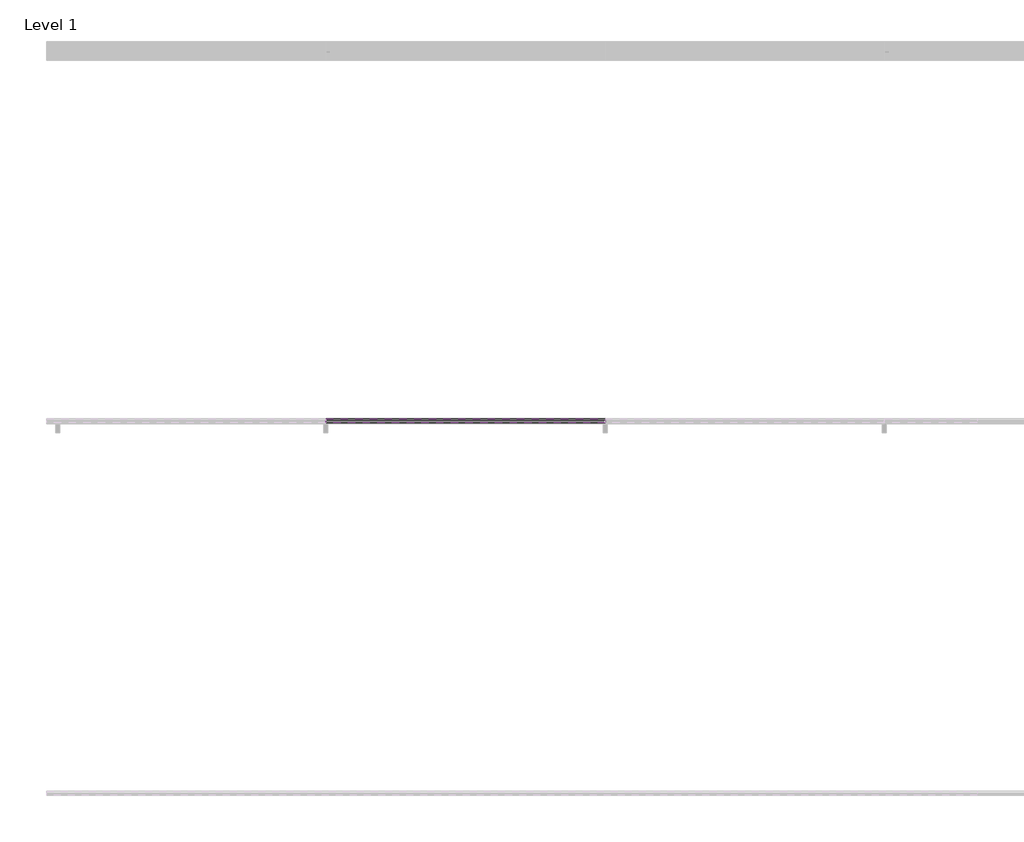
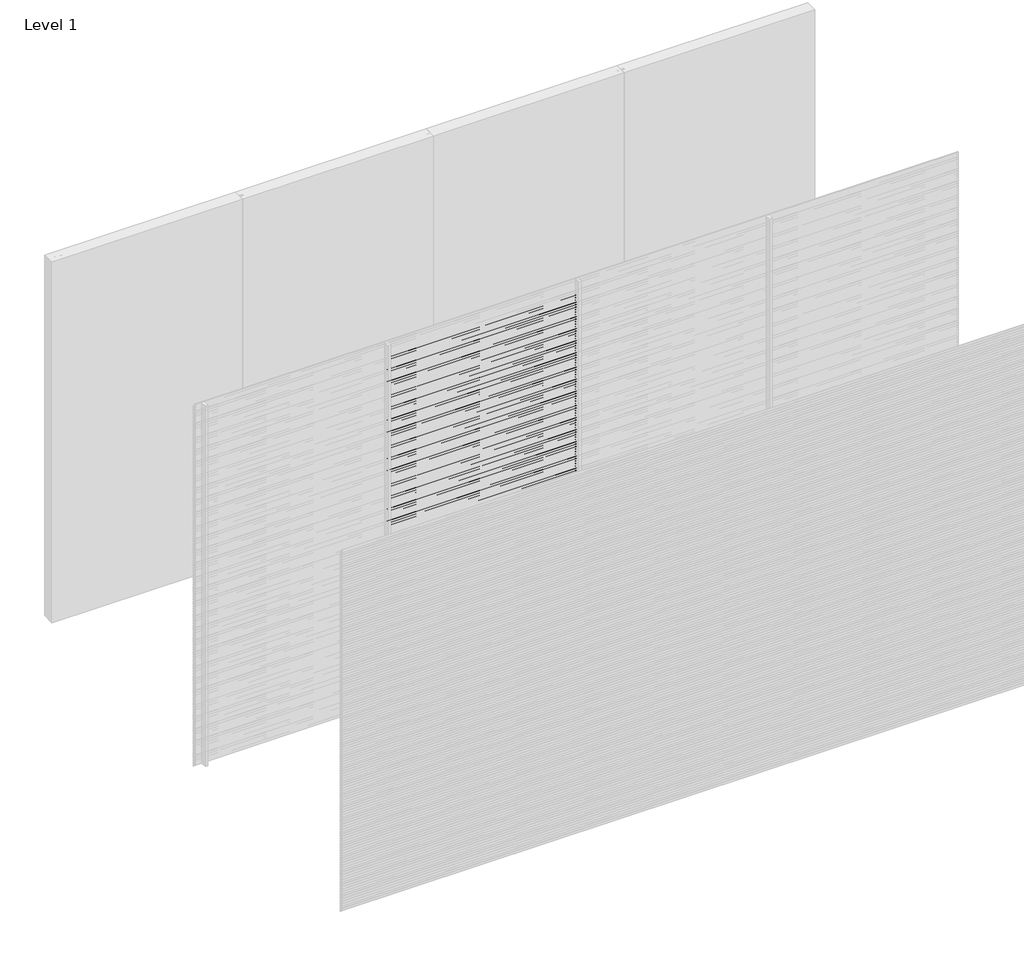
# One storey, part 20 of 31: 97 proxies.
"""IFC4 building model written with IfcOpenShell, lengths in millimetres."""

from ifc_helpers import new_model, si_unit, frame, origin, place, context, project, spatial, polyline, outline, extrude, element, save

model = new_model("IFC4")

# Units and contexts
model_context = context("Model", 3, world=origin())
ifc_project = project(units=[si_unit("LENGTHUNIT", "METRE", prefix="MILLI")], contexts=[model_context])

# Site, building, storey
site = spatial("IfcSite", under=ifc_project)
building = spatial("IfcBuilding", under=site)
storey = spatial("IfcBuildingStorey", under=building, Name="Level 1", Elevation=0.0)

# Proxies
placement = place(None, origin())
element("IfcBuildingElementProxy", 1, Name="Wall Sweeps", at=placement, inside=storey, context=model_context, shape_type="SweptSolid", body=[
    extrude(outline(polyline([(-5995.0, 2880.0), (-5995.0, 2868.942893), (-5976.0, 2853.0), (-5976.0, 2840.0), (-5997.0, 2857.6210923), (-5997.0, 2880.0), (-5995.0, 2880.0)])), frame((1500.0, 0.0, 0.0), z_axis=(1.0, 0.0, 0.0), x_axis=(0.0, 1.0, 0.0)), (0.0, 0.0, 1.0), 1500.0),
])
element("IfcBuildingElementProxy", 2, Name="Wall Sweeps", at=placement, inside=storey, context=model_context, shape_type="SweptSolid", body=[
    extrude(outline(polyline([(-5995.0, 2860.0), (-5995.0, 2848.942893), (-5976.0, 2833.0), (-5976.0, 2820.0), (-5997.0, 2837.6210923), (-5997.0, 2860.0), (-5995.0, 2860.0)])), frame((1500.0, 0.0, 0.0), z_axis=(1.0, 0.0, 0.0), x_axis=(0.0, 1.0, 0.0)), (0.0, 0.0, 1.0), 1500.0),
])
element("IfcBuildingElementProxy", 3, Name="Wall Sweeps", at=placement, inside=storey, context=model_context, shape_type="SweptSolid", body=[
    extrude(outline(polyline([(-5995.0, 2840.0), (-5995.0, 2828.942893), (-5976.0, 2813.0), (-5976.0, 2800.0), (-5997.0, 2817.6210923), (-5997.0, 2840.0), (-5995.0, 2840.0)])), frame((1500.0, 0.0, 0.0), z_axis=(1.0, 0.0, 0.0), x_axis=(0.0, 1.0, 0.0)), (0.0, 0.0, 1.0), 1500.0),
])
element("IfcBuildingElementProxy", 4, Name="Wall Sweeps", at=placement, inside=storey, context=model_context, shape_type="SweptSolid", body=[
    extrude(outline(polyline([(-5995.0, 2820.0), (-5995.0, 2808.942893), (-5976.0, 2793.0), (-5976.0, 2780.0), (-5997.0, 2797.6210923), (-5997.0, 2820.0), (-5995.0, 2820.0)])), frame((1500.0, 0.0, 0.0), z_axis=(1.0, 0.0, 0.0), x_axis=(0.0, 1.0, 0.0)), (0.0, 0.0, 1.0), 1500.0),
])
element("IfcBuildingElementProxy", 5, Name="Wall Sweeps", at=placement, inside=storey, context=model_context, shape_type="SweptSolid", body=[
    extrude(outline(polyline([(-5995.0, 2800.0), (-5995.0, 2788.942893), (-5976.0, 2773.0), (-5976.0, 2760.0), (-5997.0, 2777.6210923), (-5997.0, 2800.0), (-5995.0, 2800.0)])), frame((1500.0, 0.0, 0.0), z_axis=(1.0, 0.0, 0.0), x_axis=(0.0, 1.0, 0.0)), (0.0, 0.0, 1.0), 1500.0),
])
element("IfcBuildingElementProxy", 6, Name="Wall Sweeps", at=placement, inside=storey, context=model_context, shape_type="SweptSolid", body=[
    extrude(outline(polyline([(-5995.0, 2780.0), (-5995.0, 2768.942893), (-5976.0, 2753.0), (-5976.0, 2740.0), (-5997.0, 2757.6210923), (-5997.0, 2780.0), (-5995.0, 2780.0)])), frame((1500.0, 0.0, 0.0), z_axis=(1.0, 0.0, 0.0), x_axis=(0.0, 1.0, 0.0)), (0.0, 0.0, 1.0), 1500.0),
])
element("IfcBuildingElementProxy", 7, Name="Wall Sweeps", at=placement, inside=storey, context=model_context, shape_type="SweptSolid", body=[
    extrude(outline(polyline([(-5995.0, 2760.0), (-5995.0, 2748.942893), (-5976.0, 2733.0), (-5976.0, 2720.0), (-5997.0, 2737.6210923), (-5997.0, 2760.0), (-5995.0, 2760.0)])), frame((1500.0, 0.0, 0.0), z_axis=(1.0, 0.0, 0.0), x_axis=(0.0, 1.0, 0.0)), (0.0, 0.0, 1.0), 1500.0),
])
element("IfcBuildingElementProxy", 8, Name="Wall Sweeps", at=placement, inside=storey, context=model_context, shape_type="SweptSolid", body=[
    extrude(outline(polyline([(-5995.0, 2740.0), (-5995.0, 2728.942893), (-5976.0, 2713.0), (-5976.0, 2700.0), (-5997.0, 2717.6210923), (-5997.0, 2740.0), (-5995.0, 2740.0)])), frame((1500.0, 0.0, 0.0), z_axis=(1.0, 0.0, 0.0), x_axis=(0.0, 1.0, 0.0)), (0.0, 0.0, 1.0), 1500.0),
])
element("IfcBuildingElementProxy", 9, Name="Wall Sweeps", at=placement, inside=storey, context=model_context, shape_type="SweptSolid", body=[
    extrude(outline(polyline([(-5995.0, 2720.0), (-5995.0, 2708.942893), (-5976.0, 2693.0), (-5976.0, 2680.0), (-5997.0, 2697.6210923), (-5997.0, 2720.0), (-5995.0, 2720.0)])), frame((1500.0, 0.0, 0.0), z_axis=(1.0, 0.0, 0.0), x_axis=(0.0, 1.0, 0.0)), (0.0, 0.0, 1.0), 1500.0),
])
element("IfcBuildingElementProxy", 10, Name="Wall Sweeps", at=placement, inside=storey, context=model_context, shape_type="SweptSolid", body=[
    extrude(outline(polyline([(-5995.0, 2700.0), (-5995.0, 2688.942893), (-5976.0, 2673.0), (-5976.0, 2660.0), (-5997.0, 2677.6210923), (-5997.0, 2700.0), (-5995.0, 2700.0)])), frame((1500.0, 0.0, 0.0), z_axis=(1.0, 0.0, 0.0), x_axis=(0.0, 1.0, 0.0)), (0.0, 0.0, 1.0), 1500.0),
])
element("IfcBuildingElementProxy", 11, Name="Wall Sweeps", at=placement, inside=storey, context=model_context, shape_type="SweptSolid", body=[
    extrude(outline(polyline([(-5995.0, 2680.0), (-5995.0, 2668.942893), (-5976.0, 2653.0), (-5976.0, 2640.0), (-5997.0, 2657.6210923), (-5997.0, 2680.0), (-5995.0, 2680.0)])), frame((1500.0, 0.0, 0.0), z_axis=(1.0, 0.0, 0.0), x_axis=(0.0, 1.0, 0.0)), (0.0, 0.0, 1.0), 1500.0),
])
element("IfcBuildingElementProxy", 12, Name="Wall Sweeps", at=placement, inside=storey, context=model_context, shape_type="SweptSolid", body=[
    extrude(outline(polyline([(-5995.0, 2660.0), (-5995.0, 2648.942893), (-5976.0, 2633.0), (-5976.0, 2620.0), (-5997.0, 2637.6210923), (-5997.0, 2660.0), (-5995.0, 2660.0)])), frame((1500.0, 0.0, 0.0), z_axis=(1.0, 0.0, 0.0), x_axis=(0.0, 1.0, 0.0)), (0.0, 0.0, 1.0), 1500.0),
])
element("IfcBuildingElementProxy", 13, Name="Wall Sweeps", at=placement, inside=storey, context=model_context, shape_type="SweptSolid", body=[
    extrude(outline(polyline([(-5995.0, 2640.0), (-5995.0, 2628.942893), (-5976.0, 2613.0), (-5976.0, 2600.0), (-5997.0, 2617.6210923), (-5997.0, 2640.0), (-5995.0, 2640.0)])), frame((1500.0, 0.0, 0.0), z_axis=(1.0, 0.0, 0.0), x_axis=(0.0, 1.0, 0.0)), (0.0, 0.0, 1.0), 1500.0),
])
element("IfcBuildingElementProxy", 14, Name="Wall Sweeps", at=placement, inside=storey, context=model_context, shape_type="SweptSolid", body=[
    extrude(outline(polyline([(-5995.0, 2620.0), (-5995.0, 2608.942893), (-5976.0, 2593.0), (-5976.0, 2580.0), (-5997.0, 2597.6210923), (-5997.0, 2620.0), (-5995.0, 2620.0)])), frame((1500.0, 0.0, 0.0), z_axis=(1.0, 0.0, 0.0), x_axis=(0.0, 1.0, 0.0)), (0.0, 0.0, 1.0), 1500.0),
])
element("IfcBuildingElementProxy", 15, Name="Wall Sweeps", at=placement, inside=storey, context=model_context, shape_type="SweptSolid", body=[
    extrude(outline(polyline([(-5995.0, 2600.0), (-5995.0, 2588.942893), (-5976.0, 2573.0), (-5976.0, 2560.0), (-5997.0, 2577.6210923), (-5997.0, 2600.0), (-5995.0, 2600.0)])), frame((1500.0, 0.0, 0.0), z_axis=(1.0, 0.0, 0.0), x_axis=(0.0, 1.0, 0.0)), (0.0, 0.0, 1.0), 1500.0),
])
element("IfcBuildingElementProxy", 16, Name="Wall Sweeps", at=placement, inside=storey, context=model_context, shape_type="SweptSolid", body=[
    extrude(outline(polyline([(-5995.0, 2580.0), (-5995.0, 2568.942893), (-5976.0, 2553.0), (-5976.0, 2540.0), (-5997.0, 2557.6210923), (-5997.0, 2580.0), (-5995.0, 2580.0)])), frame((1500.0, 0.0, 0.0), z_axis=(1.0, 0.0, 0.0), x_axis=(0.0, 1.0, 0.0)), (0.0, 0.0, 1.0), 1500.0),
])
element("IfcBuildingElementProxy", 17, Name="Wall Sweeps", at=placement, inside=storey, context=model_context, shape_type="SweptSolid", body=[
    extrude(outline(polyline([(-5995.0, 2560.0), (-5995.0, 2548.942893), (-5976.0, 2533.0), (-5976.0, 2520.0), (-5997.0, 2537.6210923), (-5997.0, 2560.0), (-5995.0, 2560.0)])), frame((1500.0, 0.0, 0.0), z_axis=(1.0, 0.0, 0.0), x_axis=(0.0, 1.0, 0.0)), (0.0, 0.0, 1.0), 1500.0),
])
element("IfcBuildingElementProxy", 18, Name="Wall Sweeps", at=placement, inside=storey, context=model_context, shape_type="SweptSolid", body=[
    extrude(outline(polyline([(-5995.0, 2540.0), (-5995.0, 2528.942893), (-5976.0, 2513.0), (-5976.0, 2500.0), (-5997.0, 2517.6210923), (-5997.0, 2540.0), (-5995.0, 2540.0)])), frame((1500.0, 0.0, 0.0), z_axis=(1.0, 0.0, 0.0), x_axis=(0.0, 1.0, 0.0)), (0.0, 0.0, 1.0), 1500.0),
])
element("IfcBuildingElementProxy", 19, Name="Wall Sweeps", at=placement, inside=storey, context=model_context, shape_type="SweptSolid", body=[
    extrude(outline(polyline([(-5995.0, 2520.0), (-5995.0, 2508.942893), (-5976.0, 2493.0), (-5976.0, 2480.0), (-5997.0, 2497.6210923), (-5997.0, 2520.0), (-5995.0, 2520.0)])), frame((1500.0, 0.0, 0.0), z_axis=(1.0, 0.0, 0.0), x_axis=(0.0, 1.0, 0.0)), (0.0, 0.0, 1.0), 1500.0),
])
element("IfcBuildingElementProxy", 20, Name="Wall Sweeps", at=placement, inside=storey, context=model_context, shape_type="SweptSolid", body=[
    extrude(outline(polyline([(-5995.0, 2500.0), (-5995.0, 2488.942893), (-5976.0, 2473.0), (-5976.0, 2460.0), (-5997.0, 2477.6210923), (-5997.0, 2500.0), (-5995.0, 2500.0)])), frame((1500.0, 0.0, 0.0), z_axis=(1.0, 0.0, 0.0), x_axis=(0.0, 1.0, 0.0)), (0.0, 0.0, 1.0), 1500.0),
])
element("IfcBuildingElementProxy", 21, Name="Wall Sweeps", at=placement, inside=storey, context=model_context, shape_type="SweptSolid", body=[
    extrude(outline(polyline([(-5995.0, 2480.0), (-5995.0, 2468.942893), (-5976.0, 2453.0), (-5976.0, 2440.0), (-5997.0, 2457.6210923), (-5997.0, 2480.0), (-5995.0, 2480.0)])), frame((1500.0, 0.0, 0.0), z_axis=(1.0, 0.0, 0.0), x_axis=(0.0, 1.0, 0.0)), (0.0, 0.0, 1.0), 1500.0),
])
element("IfcBuildingElementProxy", 22, Name="Wall Sweeps", at=placement, inside=storey, context=model_context, shape_type="SweptSolid", body=[
    extrude(outline(polyline([(-5995.0, 2460.0), (-5995.0, 2448.942893), (-5976.0, 2433.0), (-5976.0, 2420.0), (-5997.0, 2437.6210923), (-5997.0, 2460.0), (-5995.0, 2460.0)])), frame((1500.0, 0.0, 0.0), z_axis=(1.0, 0.0, 0.0), x_axis=(0.0, 1.0, 0.0)), (0.0, 0.0, 1.0), 1500.0),
])
element("IfcBuildingElementProxy", 23, Name="Wall Sweeps", at=placement, inside=storey, context=model_context, shape_type="SweptSolid", body=[
    extrude(outline(polyline([(-5995.0, 2440.0), (-5995.0, 2428.942893), (-5976.0, 2413.0), (-5976.0, 2400.0), (-5997.0, 2417.6210923), (-5997.0, 2440.0), (-5995.0, 2440.0)])), frame((1500.0, 0.0, 0.0), z_axis=(1.0, 0.0, 0.0), x_axis=(0.0, 1.0, 0.0)), (0.0, 0.0, 1.0), 1500.0),
])
element("IfcBuildingElementProxy", 24, Name="Wall Sweeps", at=placement, inside=storey, context=model_context, shape_type="SweptSolid", body=[
    extrude(outline(polyline([(-5995.0, 2420.0), (-5995.0, 2408.942893), (-5976.0, 2393.0), (-5976.0, 2380.0), (-5997.0, 2397.6210923), (-5997.0, 2420.0), (-5995.0, 2420.0)])), frame((1500.0, 0.0, 0.0), z_axis=(1.0, 0.0, 0.0), x_axis=(0.0, 1.0, 0.0)), (0.0, 0.0, 1.0), 1500.0),
])
element("IfcBuildingElementProxy", 25, Name="Wall Sweeps", at=placement, inside=storey, context=model_context, shape_type="SweptSolid", body=[
    extrude(outline(polyline([(-5995.0, 2400.0), (-5995.0, 2388.942893), (-5976.0, 2373.0), (-5976.0, 2360.0), (-5997.0, 2377.6210923), (-5997.0, 2400.0), (-5995.0, 2400.0)])), frame((1500.0, 0.0, 0.0), z_axis=(1.0, 0.0, 0.0), x_axis=(0.0, 1.0, 0.0)), (0.0, 0.0, 1.0), 1500.0),
])
element("IfcBuildingElementProxy", 26, Name="Wall Sweeps", at=placement, inside=storey, context=model_context, shape_type="SweptSolid", body=[
    extrude(outline(polyline([(-5995.0, 2380.0), (-5995.0, 2368.942893), (-5976.0, 2353.0), (-5976.0, 2340.0), (-5997.0, 2357.6210923), (-5997.0, 2380.0), (-5995.0, 2380.0)])), frame((1500.0, 0.0, 0.0), z_axis=(1.0, 0.0, 0.0), x_axis=(0.0, 1.0, 0.0)), (0.0, 0.0, 1.0), 1500.0),
])
element("IfcBuildingElementProxy", 27, Name="Wall Sweeps", at=placement, inside=storey, context=model_context, shape_type="SweptSolid", body=[
    extrude(outline(polyline([(-5995.0, 2360.0), (-5995.0, 2348.942893), (-5976.0, 2333.0), (-5976.0, 2320.0), (-5997.0, 2337.6210923), (-5997.0, 2360.0), (-5995.0, 2360.0)])), frame((1500.0, 0.0, 0.0), z_axis=(1.0, 0.0, 0.0), x_axis=(0.0, 1.0, 0.0)), (0.0, 0.0, 1.0), 1500.0),
])
element("IfcBuildingElementProxy", 28, Name="Wall Sweeps", at=placement, inside=storey, context=model_context, shape_type="SweptSolid", body=[
    extrude(outline(polyline([(-5995.0, 2340.0), (-5995.0, 2328.942893), (-5976.0, 2313.0), (-5976.0, 2300.0), (-5997.0, 2317.6210923), (-5997.0, 2340.0), (-5995.0, 2340.0)])), frame((1500.0, 0.0, 0.0), z_axis=(1.0, 0.0, 0.0), x_axis=(0.0, 1.0, 0.0)), (0.0, 0.0, 1.0), 1500.0),
])
element("IfcBuildingElementProxy", 29, Name="Wall Sweeps", at=placement, inside=storey, context=model_context, shape_type="SweptSolid", body=[
    extrude(outline(polyline([(-5995.0, 2320.0), (-5995.0, 2308.942893), (-5976.0, 2293.0), (-5976.0, 2280.0), (-5997.0, 2297.6210923), (-5997.0, 2320.0), (-5995.0, 2320.0)])), frame((1500.0, 0.0, 0.0), z_axis=(1.0, 0.0, 0.0), x_axis=(0.0, 1.0, 0.0)), (0.0, 0.0, 1.0), 1500.0),
])
element("IfcBuildingElementProxy", 30, Name="Wall Sweeps", at=placement, inside=storey, context=model_context, shape_type="SweptSolid", body=[
    extrude(outline(polyline([(-5995.0, 2300.0), (-5995.0, 2288.942893), (-5976.0, 2273.0), (-5976.0, 2260.0), (-5997.0, 2277.6210923), (-5997.0, 2300.0), (-5995.0, 2300.0)])), frame((1500.0, 0.0, 0.0), z_axis=(1.0, 0.0, 0.0), x_axis=(0.0, 1.0, 0.0)), (0.0, 0.0, 1.0), 1500.0),
])
element("IfcBuildingElementProxy", 31, Name="Wall Sweeps", at=placement, inside=storey, context=model_context, shape_type="SweptSolid", body=[
    extrude(outline(polyline([(-5995.0, 2280.0), (-5995.0, 2268.942893), (-5976.0, 2253.0), (-5976.0, 2240.0), (-5997.0, 2257.6210923), (-5997.0, 2280.0), (-5995.0, 2280.0)])), frame((1500.0, 0.0, 0.0), z_axis=(1.0, 0.0, 0.0), x_axis=(0.0, 1.0, 0.0)), (0.0, 0.0, 1.0), 1500.0),
])
element("IfcBuildingElementProxy", 32, Name="Wall Sweeps", at=placement, inside=storey, context=model_context, shape_type="SweptSolid", body=[
    extrude(outline(polyline([(-5995.0, 2260.0), (-5995.0, 2248.942893), (-5976.0, 2233.0), (-5976.0, 2220.0), (-5997.0, 2237.6210923), (-5997.0, 2260.0), (-5995.0, 2260.0)])), frame((1500.0, 0.0, 0.0), z_axis=(1.0, 0.0, 0.0), x_axis=(0.0, 1.0, 0.0)), (0.0, 0.0, 1.0), 1500.0),
])
element("IfcBuildingElementProxy", 33, Name="Wall Sweeps", at=placement, inside=storey, context=model_context, shape_type="SweptSolid", body=[
    extrude(outline(polyline([(-5995.0, 2240.0), (-5995.0, 2228.942893), (-5976.0, 2213.0), (-5976.0, 2200.0), (-5997.0, 2217.6210923), (-5997.0, 2240.0), (-5995.0, 2240.0)])), frame((1500.0, 0.0, 0.0), z_axis=(1.0, 0.0, 0.0), x_axis=(0.0, 1.0, 0.0)), (0.0, 0.0, 1.0), 1500.0),
])
element("IfcBuildingElementProxy", 34, Name="Wall Sweeps", at=placement, inside=storey, context=model_context, shape_type="SweptSolid", body=[
    extrude(outline(polyline([(-5995.0, 2220.0), (-5995.0, 2208.942893), (-5976.0, 2193.0), (-5976.0, 2180.0), (-5997.0, 2197.6210923), (-5997.0, 2220.0), (-5995.0, 2220.0)])), frame((1500.0, 0.0, 0.0), z_axis=(1.0, 0.0, 0.0), x_axis=(0.0, 1.0, 0.0)), (0.0, 0.0, 1.0), 1500.0),
])
element("IfcBuildingElementProxy", 35, Name="Wall Sweeps", at=placement, inside=storey, context=model_context, shape_type="SweptSolid", body=[
    extrude(outline(polyline([(-5995.0, 2200.0), (-5995.0, 2188.942893), (-5976.0, 2173.0), (-5976.0, 2160.0), (-5997.0, 2177.6210923), (-5997.0, 2200.0), (-5995.0, 2200.0)])), frame((1500.0, 0.0, 0.0), z_axis=(1.0, 0.0, 0.0), x_axis=(0.0, 1.0, 0.0)), (0.0, 0.0, 1.0), 1500.0),
])
element("IfcBuildingElementProxy", 36, Name="Wall Sweeps", at=placement, inside=storey, context=model_context, shape_type="SweptSolid", body=[
    extrude(outline(polyline([(-5995.0, 2180.0), (-5995.0, 2168.942893), (-5976.0, 2153.0), (-5976.0, 2140.0), (-5997.0, 2157.6210923), (-5997.0, 2180.0), (-5995.0, 2180.0)])), frame((1500.0, 0.0, 0.0), z_axis=(1.0, 0.0, 0.0), x_axis=(0.0, 1.0, 0.0)), (0.0, 0.0, 1.0), 1500.0),
])
element("IfcBuildingElementProxy", 37, Name="Wall Sweeps", at=placement, inside=storey, context=model_context, shape_type="SweptSolid", body=[
    extrude(outline(polyline([(-5995.0, 2160.0), (-5995.0, 2148.942893), (-5976.0, 2133.0), (-5976.0, 2120.0), (-5997.0, 2137.6210923), (-5997.0, 2160.0), (-5995.0, 2160.0)])), frame((1500.0, 0.0, 0.0), z_axis=(1.0, 0.0, 0.0), x_axis=(0.0, 1.0, 0.0)), (0.0, 0.0, 1.0), 1500.0),
])
element("IfcBuildingElementProxy", 38, Name="Wall Sweeps", at=placement, inside=storey, context=model_context, shape_type="SweptSolid", body=[
    extrude(outline(polyline([(-5995.0, 2140.0), (-5995.0, 2128.942893), (-5976.0, 2113.0), (-5976.0, 2100.0), (-5997.0, 2117.6210923), (-5997.0, 2140.0), (-5995.0, 2140.0)])), frame((1500.0, 0.0, 0.0), z_axis=(1.0, 0.0, 0.0), x_axis=(0.0, 1.0, 0.0)), (0.0, 0.0, 1.0), 1500.0),
])
element("IfcBuildingElementProxy", 39, Name="Wall Sweeps", at=placement, inside=storey, context=model_context, shape_type="SweptSolid", body=[
    extrude(outline(polyline([(-5995.0, 2120.0), (-5995.0, 2108.942893), (-5976.0, 2093.0), (-5976.0, 2080.0), (-5997.0, 2097.6210923), (-5997.0, 2120.0), (-5995.0, 2120.0)])), frame((1500.0, 0.0, 0.0), z_axis=(1.0, 0.0, 0.0), x_axis=(0.0, 1.0, 0.0)), (0.0, 0.0, 1.0), 1500.0),
])
element("IfcBuildingElementProxy", 40, Name="Wall Sweeps", at=placement, inside=storey, context=model_context, shape_type="SweptSolid", body=[
    extrude(outline(polyline([(-5995.0, 2100.0), (-5995.0, 2088.942893), (-5976.0, 2073.0), (-5976.0, 2060.0), (-5997.0, 2077.6210923), (-5997.0, 2100.0), (-5995.0, 2100.0)])), frame((1500.0, 0.0, 0.0), z_axis=(1.0, 0.0, 0.0), x_axis=(0.0, 1.0, 0.0)), (0.0, 0.0, 1.0), 1500.0),
])
element("IfcBuildingElementProxy", 41, Name="Wall Sweeps", at=placement, inside=storey, context=model_context, shape_type="SweptSolid", body=[
    extrude(outline(polyline([(-5995.0, 2080.0), (-5995.0, 2068.942893), (-5976.0, 2053.0), (-5976.0, 2040.0), (-5997.0, 2057.6210923), (-5997.0, 2080.0), (-5995.0, 2080.0)])), frame((1500.0, 0.0, 0.0), z_axis=(1.0, 0.0, 0.0), x_axis=(0.0, 1.0, 0.0)), (0.0, 0.0, 1.0), 1500.0),
])
element("IfcBuildingElementProxy", 42, Name="Wall Sweeps", at=placement, inside=storey, context=model_context, shape_type="SweptSolid", body=[
    extrude(outline(polyline([(-5995.0, 2060.0), (-5995.0, 2048.942893), (-5976.0, 2033.0), (-5976.0, 2020.0), (-5997.0, 2037.6210923), (-5997.0, 2060.0), (-5995.0, 2060.0)])), frame((1500.0, 0.0, 0.0), z_axis=(1.0, 0.0, 0.0), x_axis=(0.0, 1.0, 0.0)), (0.0, 0.0, 1.0), 1500.0),
])
element("IfcBuildingElementProxy", 43, Name="Wall Sweeps", at=placement, inside=storey, context=model_context, shape_type="SweptSolid", body=[
    extrude(outline(polyline([(-5995.0, 2040.0), (-5995.0, 2028.942893), (-5976.0, 2013.0), (-5976.0, 2000.0), (-5997.0, 2017.6210923), (-5997.0, 2040.0), (-5995.0, 2040.0)])), frame((1500.0, 0.0, 0.0), z_axis=(1.0, 0.0, 0.0), x_axis=(0.0, 1.0, 0.0)), (0.0, 0.0, 1.0), 1500.0),
])
element("IfcBuildingElementProxy", 44, Name="Wall Sweeps", at=placement, inside=storey, context=model_context, shape_type="SweptSolid", body=[
    extrude(outline(polyline([(-5995.0, 2020.0), (-5995.0, 2008.942893), (-5976.0, 1993.0), (-5976.0, 1980.0), (-5997.0, 1997.6210923), (-5997.0, 2020.0), (-5995.0, 2020.0)])), frame((1500.0, 0.0, 0.0), z_axis=(1.0, 0.0, 0.0), x_axis=(0.0, 1.0, 0.0)), (0.0, 0.0, 1.0), 1500.0),
])
element("IfcBuildingElementProxy", 45, Name="Wall Sweeps", at=placement, inside=storey, context=model_context, shape_type="SweptSolid", body=[
    extrude(outline(polyline([(-5995.0, 2000.0), (-5995.0, 1988.942893), (-5976.0, 1973.0), (-5976.0, 1960.0), (-5997.0, 1977.6210923), (-5997.0, 2000.0), (-5995.0, 2000.0)])), frame((1500.0, 0.0, 0.0), z_axis=(1.0, 0.0, 0.0), x_axis=(0.0, 1.0, 0.0)), (0.0, 0.0, 1.0), 1500.0),
])
element("IfcBuildingElementProxy", 46, Name="Wall Sweeps", at=placement, inside=storey, context=model_context, shape_type="SweptSolid", body=[
    extrude(outline(polyline([(-5995.0, 1980.0), (-5995.0, 1968.942893), (-5976.0, 1953.0), (-5976.0, 1940.0), (-5997.0, 1957.6210923), (-5997.0, 1980.0), (-5995.0, 1980.0)])), frame((1500.0, 0.0, 0.0), z_axis=(1.0, 0.0, 0.0), x_axis=(0.0, 1.0, 0.0)), (0.0, 0.0, 1.0), 1500.0),
])
element("IfcBuildingElementProxy", 47, Name="Wall Sweeps", at=placement, inside=storey, context=model_context, shape_type="SweptSolid", body=[
    extrude(outline(polyline([(-5995.0, 1960.0), (-5995.0, 1948.942893), (-5976.0, 1933.0), (-5976.0, 1920.0), (-5997.0, 1937.6210923), (-5997.0, 1960.0), (-5995.0, 1960.0)])), frame((1500.0, 0.0, 0.0), z_axis=(1.0, 0.0, 0.0), x_axis=(0.0, 1.0, 0.0)), (0.0, 0.0, 1.0), 1500.0),
])
element("IfcBuildingElementProxy", 48, Name="Wall Sweeps", at=placement, inside=storey, context=model_context, shape_type="SweptSolid", body=[
    extrude(outline(polyline([(-5995.0, 1940.0), (-5995.0, 1928.942893), (-5976.0, 1913.0), (-5976.0, 1900.0), (-5997.0, 1917.6210923), (-5997.0, 1940.0), (-5995.0, 1940.0)])), frame((1500.0, 0.0, 0.0), z_axis=(1.0, 0.0, 0.0), x_axis=(0.0, 1.0, 0.0)), (0.0, 0.0, 1.0), 1500.0),
])
element("IfcBuildingElementProxy", 49, Name="Wall Sweeps", at=placement, inside=storey, context=model_context, shape_type="SweptSolid", body=[
    extrude(outline(polyline([(-5995.0, 1920.0), (-5995.0, 1908.942893), (-5976.0, 1893.0), (-5976.0, 1880.0), (-5997.0, 1897.6210923), (-5997.0, 1920.0), (-5995.0, 1920.0)])), frame((1500.0, 0.0, 0.0), z_axis=(1.0, 0.0, 0.0), x_axis=(0.0, 1.0, 0.0)), (0.0, 0.0, 1.0), 1500.0),
])
element("IfcBuildingElementProxy", 50, Name="Wall Sweeps", at=placement, inside=storey, context=model_context, shape_type="SweptSolid", body=[
    extrude(outline(polyline([(-5995.0, 1900.0), (-5995.0, 1888.942893), (-5976.0, 1873.0), (-5976.0, 1860.0), (-5997.0, 1877.6210923), (-5997.0, 1900.0), (-5995.0, 1900.0)])), frame((1500.0, 0.0, 0.0), z_axis=(1.0, 0.0, 0.0), x_axis=(0.0, 1.0, 0.0)), (0.0, 0.0, 1.0), 1500.0),
])
element("IfcBuildingElementProxy", 51, Name="Wall Sweeps", at=placement, inside=storey, context=model_context, shape_type="SweptSolid", body=[
    extrude(outline(polyline([(-5995.0, 1880.0), (-5995.0, 1868.942893), (-5976.0, 1853.0), (-5976.0, 1840.0), (-5997.0, 1857.6210923), (-5997.0, 1880.0), (-5995.0, 1880.0)])), frame((1500.0, 0.0, 0.0), z_axis=(1.0, 0.0, 0.0), x_axis=(0.0, 1.0, 0.0)), (0.0, 0.0, 1.0), 1500.0),
])
element("IfcBuildingElementProxy", 52, Name="Wall Sweeps", at=placement, inside=storey, context=model_context, shape_type="SweptSolid", body=[
    extrude(outline(polyline([(-5995.0, 1860.0), (-5995.0, 1848.942893), (-5976.0, 1833.0), (-5976.0, 1820.0), (-5997.0, 1837.6210923), (-5997.0, 1860.0), (-5995.0, 1860.0)])), frame((1500.0, 0.0, 0.0), z_axis=(1.0, 0.0, 0.0), x_axis=(0.0, 1.0, 0.0)), (0.0, 0.0, 1.0), 1500.0),
])
element("IfcBuildingElementProxy", 53, Name="Wall Sweeps", at=placement, inside=storey, context=model_context, shape_type="SweptSolid", body=[
    extrude(outline(polyline([(-5995.0, 1840.0), (-5995.0, 1828.942893), (-5976.0, 1813.0), (-5976.0, 1800.0), (-5997.0, 1817.6210923), (-5997.0, 1840.0), (-5995.0, 1840.0)])), frame((1500.0, 0.0, 0.0), z_axis=(1.0, 0.0, 0.0), x_axis=(0.0, 1.0, 0.0)), (0.0, 0.0, 1.0), 1500.0),
])
element("IfcBuildingElementProxy", 54, Name="Wall Sweeps", at=placement, inside=storey, context=model_context, shape_type="SweptSolid", body=[
    extrude(outline(polyline([(-5995.0, 1820.0), (-5995.0, 1808.942893), (-5976.0, 1793.0), (-5976.0, 1780.0), (-5997.0, 1797.6210923), (-5997.0, 1820.0), (-5995.0, 1820.0)])), frame((1500.0, 0.0, 0.0), z_axis=(1.0, 0.0, 0.0), x_axis=(0.0, 1.0, 0.0)), (0.0, 0.0, 1.0), 1500.0),
])
element("IfcBuildingElementProxy", 55, Name="Wall Sweeps", at=placement, inside=storey, context=model_context, shape_type="SweptSolid", body=[
    extrude(outline(polyline([(-5995.0, 1800.0), (-5995.0, 1788.942893), (-5976.0, 1773.0), (-5976.0, 1760.0), (-5997.0, 1777.6210923), (-5997.0, 1800.0), (-5995.0, 1800.0)])), frame((1500.0, 0.0, 0.0), z_axis=(1.0, 0.0, 0.0), x_axis=(0.0, 1.0, 0.0)), (0.0, 0.0, 1.0), 1500.0),
])
element("IfcBuildingElementProxy", 56, Name="Wall Sweeps", at=placement, inside=storey, context=model_context, shape_type="SweptSolid", body=[
    extrude(outline(polyline([(-5995.0, 1780.0), (-5995.0, 1768.942893), (-5976.0, 1753.0), (-5976.0, 1740.0), (-5997.0, 1757.6210923), (-5997.0, 1780.0), (-5995.0, 1780.0)])), frame((1500.0, 0.0, 0.0), z_axis=(1.0, 0.0, 0.0), x_axis=(0.0, 1.0, 0.0)), (0.0, 0.0, 1.0), 1500.0),
])
element("IfcBuildingElementProxy", 57, Name="Wall Sweeps", at=placement, inside=storey, context=model_context, shape_type="SweptSolid", body=[
    extrude(outline(polyline([(-5995.0, 1760.0), (-5995.0, 1748.942893), (-5976.0, 1733.0), (-5976.0, 1720.0), (-5997.0, 1737.6210923), (-5997.0, 1760.0), (-5995.0, 1760.0)])), frame((1500.0, 0.0, 0.0), z_axis=(1.0, 0.0, 0.0), x_axis=(0.0, 1.0, 0.0)), (0.0, 0.0, 1.0), 1500.0),
])
element("IfcBuildingElementProxy", 58, Name="Wall Sweeps", at=placement, inside=storey, context=model_context, shape_type="SweptSolid", body=[
    extrude(outline(polyline([(-5995.0, 1740.0), (-5995.0, 1728.942893), (-5976.0, 1713.0), (-5976.0, 1700.0), (-5997.0, 1717.6210923), (-5997.0, 1740.0), (-5995.0, 1740.0)])), frame((1500.0, 0.0, 0.0), z_axis=(1.0, 0.0, 0.0), x_axis=(0.0, 1.0, 0.0)), (0.0, 0.0, 1.0), 1500.0),
])
element("IfcBuildingElementProxy", 59, Name="Wall Sweeps", at=placement, inside=storey, context=model_context, shape_type="SweptSolid", body=[
    extrude(outline(polyline([(-5995.0, 1720.0), (-5995.0, 1708.942893), (-5976.0, 1693.0), (-5976.0, 1680.0), (-5997.0, 1697.6210923), (-5997.0, 1720.0), (-5995.0, 1720.0)])), frame((1500.0, 0.0, 0.0), z_axis=(1.0, 0.0, 0.0), x_axis=(0.0, 1.0, 0.0)), (0.0, 0.0, 1.0), 1500.0),
])
element("IfcBuildingElementProxy", 60, Name="Wall Sweeps", at=placement, inside=storey, context=model_context, shape_type="SweptSolid", body=[
    extrude(outline(polyline([(-5995.0, 1700.0), (-5995.0, 1688.942893), (-5976.0, 1673.0), (-5976.0, 1660.0), (-5997.0, 1677.6210923), (-5997.0, 1700.0), (-5995.0, 1700.0)])), frame((1500.0, 0.0, 0.0), z_axis=(1.0, 0.0, 0.0), x_axis=(0.0, 1.0, 0.0)), (0.0, 0.0, 1.0), 1500.0),
])
element("IfcBuildingElementProxy", 61, Name="Wall Sweeps", at=placement, inside=storey, context=model_context, shape_type="SweptSolid", body=[
    extrude(outline(polyline([(-5995.0, 1680.0), (-5995.0, 1668.942893), (-5976.0, 1653.0), (-5976.0, 1640.0), (-5997.0, 1657.6210923), (-5997.0, 1680.0), (-5995.0, 1680.0)])), frame((1500.0, 0.0, 0.0), z_axis=(1.0, 0.0, 0.0), x_axis=(0.0, 1.0, 0.0)), (0.0, 0.0, 1.0), 1500.0),
])
element("IfcBuildingElementProxy", 62, Name="Wall Sweeps", at=placement, inside=storey, context=model_context, shape_type="SweptSolid", body=[
    extrude(outline(polyline([(-5995.0, 1660.0), (-5995.0, 1648.942893), (-5976.0, 1633.0), (-5976.0, 1620.0), (-5997.0, 1637.6210923), (-5997.0, 1660.0), (-5995.0, 1660.0)])), frame((1500.0, 0.0, 0.0), z_axis=(1.0, 0.0, 0.0), x_axis=(0.0, 1.0, 0.0)), (0.0, 0.0, 1.0), 1500.0),
])
element("IfcBuildingElementProxy", 63, Name="Wall Sweeps", at=placement, inside=storey, context=model_context, shape_type="SweptSolid", body=[
    extrude(outline(polyline([(-5995.0, 1640.0), (-5995.0, 1628.942893), (-5976.0, 1613.0), (-5976.0, 1600.0), (-5997.0, 1617.6210923), (-5997.0, 1640.0), (-5995.0, 1640.0)])), frame((1500.0, 0.0, 0.0), z_axis=(1.0, 0.0, 0.0), x_axis=(0.0, 1.0, 0.0)), (0.0, 0.0, 1.0), 1500.0),
])
element("IfcBuildingElementProxy", 64, Name="Wall Sweeps", at=placement, inside=storey, context=model_context, shape_type="SweptSolid", body=[
    extrude(outline(polyline([(-5995.0, 1620.0), (-5995.0, 1608.942893), (-5976.0, 1593.0), (-5976.0, 1580.0), (-5997.0, 1597.6210923), (-5997.0, 1620.0), (-5995.0, 1620.0)])), frame((1500.0, 0.0, 0.0), z_axis=(1.0, 0.0, 0.0), x_axis=(0.0, 1.0, 0.0)), (0.0, 0.0, 1.0), 1500.0),
])
element("IfcBuildingElementProxy", 65, Name="Wall Sweeps", at=placement, inside=storey, context=model_context, shape_type="SweptSolid", body=[
    extrude(outline(polyline([(-5995.0, 1600.0), (-5995.0, 1588.942893), (-5976.0, 1573.0), (-5976.0, 1560.0), (-5997.0, 1577.6210923), (-5997.0, 1600.0), (-5995.0, 1600.0)])), frame((1500.0, 0.0, 0.0), z_axis=(1.0, 0.0, 0.0), x_axis=(0.0, 1.0, 0.0)), (0.0, 0.0, 1.0), 1500.0),
])
element("IfcBuildingElementProxy", 66, Name="Wall Sweeps", at=placement, inside=storey, context=model_context, shape_type="SweptSolid", body=[
    extrude(outline(polyline([(-5995.0, 1580.0), (-5995.0, 1568.942893), (-5976.0, 1553.0), (-5976.0, 1540.0), (-5997.0, 1557.6210923), (-5997.0, 1580.0), (-5995.0, 1580.0)])), frame((1500.0, 0.0, 0.0), z_axis=(1.0, 0.0, 0.0), x_axis=(0.0, 1.0, 0.0)), (0.0, 0.0, 1.0), 1500.0),
])
element("IfcBuildingElementProxy", 67, Name="Wall Sweeps", at=placement, inside=storey, context=model_context, shape_type="SweptSolid", body=[
    extrude(outline(polyline([(-5995.0, 1560.0), (-5995.0, 1548.942893), (-5976.0, 1533.0), (-5976.0, 1520.0), (-5997.0, 1537.6210923), (-5997.0, 1560.0), (-5995.0, 1560.0)])), frame((1500.0, 0.0, 0.0), z_axis=(1.0, 0.0, 0.0), x_axis=(0.0, 1.0, 0.0)), (0.0, 0.0, 1.0), 1500.0),
])
element("IfcBuildingElementProxy", 68, Name="Wall Sweeps", at=placement, inside=storey, context=model_context, shape_type="SweptSolid", body=[
    extrude(outline(polyline([(-5995.0, 1540.0), (-5995.0, 1528.942893), (-5976.0, 1513.0), (-5976.0, 1500.0), (-5997.0, 1517.6210923), (-5997.0, 1540.0), (-5995.0, 1540.0)])), frame((1500.0, 0.0, 0.0), z_axis=(1.0, 0.0, 0.0), x_axis=(0.0, 1.0, 0.0)), (0.0, 0.0, 1.0), 1500.0),
])
element("IfcBuildingElementProxy", 69, Name="Wall Sweeps", at=placement, inside=storey, context=model_context, shape_type="SweptSolid", body=[
    extrude(outline(polyline([(-5995.0, 1520.0), (-5995.0, 1508.942893), (-5976.0, 1493.0), (-5976.0, 1480.0), (-5997.0, 1497.6210923), (-5997.0, 1520.0), (-5995.0, 1520.0)])), frame((1500.0, 0.0, 0.0), z_axis=(1.0, 0.0, 0.0), x_axis=(0.0, 1.0, 0.0)), (0.0, 0.0, 1.0), 1500.0),
])
element("IfcBuildingElementProxy", 70, Name="Wall Sweeps", at=placement, inside=storey, context=model_context, shape_type="SweptSolid", body=[
    extrude(outline(polyline([(-5995.0, 1500.0), (-5995.0, 1488.942893), (-5976.0, 1473.0), (-5976.0, 1460.0), (-5997.0, 1477.6210923), (-5997.0, 1500.0), (-5995.0, 1500.0)])), frame((1500.0, 0.0, 0.0), z_axis=(1.0, 0.0, 0.0), x_axis=(0.0, 1.0, 0.0)), (0.0, 0.0, 1.0), 1500.0),
])
element("IfcBuildingElementProxy", 71, Name="Wall Sweeps", at=placement, inside=storey, context=model_context, shape_type="SweptSolid", body=[
    extrude(outline(polyline([(-5995.0, 1480.0), (-5995.0, 1468.942893), (-5976.0, 1453.0), (-5976.0, 1440.0), (-5997.0, 1457.6210923), (-5997.0, 1480.0), (-5995.0, 1480.0)])), frame((1500.0, 0.0, 0.0), z_axis=(1.0, 0.0, 0.0), x_axis=(0.0, 1.0, 0.0)), (0.0, 0.0, 1.0), 1500.0),
])
element("IfcBuildingElementProxy", 72, Name="Wall Sweeps", at=placement, inside=storey, context=model_context, shape_type="SweptSolid", body=[
    extrude(outline(polyline([(-5995.0, 1460.0), (-5995.0, 1448.942893), (-5976.0, 1433.0), (-5976.0, 1420.0), (-5997.0, 1437.6210923), (-5997.0, 1460.0), (-5995.0, 1460.0)])), frame((1500.0, 0.0, 0.0), z_axis=(1.0, 0.0, 0.0), x_axis=(0.0, 1.0, 0.0)), (0.0, 0.0, 1.0), 1500.0),
])
element("IfcBuildingElementProxy", 73, Name="Wall Sweeps", at=placement, inside=storey, context=model_context, shape_type="SweptSolid", body=[
    extrude(outline(polyline([(-5995.0, 1440.0), (-5995.0, 1428.942893), (-5976.0, 1413.0), (-5976.0, 1400.0), (-5997.0, 1417.6210923), (-5997.0, 1440.0), (-5995.0, 1440.0)])), frame((1500.0, 0.0, 0.0), z_axis=(1.0, 0.0, 0.0), x_axis=(0.0, 1.0, 0.0)), (0.0, 0.0, 1.0), 1500.0),
])
element("IfcBuildingElementProxy", 74, Name="Wall Sweeps", at=placement, inside=storey, context=model_context, shape_type="SweptSolid", body=[
    extrude(outline(polyline([(-5995.0, 1420.0), (-5995.0, 1408.942893), (-5976.0, 1393.0), (-5976.0, 1380.0), (-5997.0, 1397.6210923), (-5997.0, 1420.0), (-5995.0, 1420.0)])), frame((1500.0, 0.0, 0.0), z_axis=(1.0, 0.0, 0.0), x_axis=(0.0, 1.0, 0.0)), (0.0, 0.0, 1.0), 1500.0),
])
element("IfcBuildingElementProxy", 75, Name="Wall Sweeps", at=placement, inside=storey, context=model_context, shape_type="SweptSolid", body=[
    extrude(outline(polyline([(-5995.0, 1400.0), (-5995.0, 1388.942893), (-5976.0, 1373.0), (-5976.0, 1360.0), (-5997.0, 1377.6210923), (-5997.0, 1400.0), (-5995.0, 1400.0)])), frame((1500.0, 0.0, 0.0), z_axis=(1.0, 0.0, 0.0), x_axis=(0.0, 1.0, 0.0)), (0.0, 0.0, 1.0), 1500.0),
])
element("IfcBuildingElementProxy", 76, Name="Wall Sweeps", at=placement, inside=storey, context=model_context, shape_type="SweptSolid", body=[
    extrude(outline(polyline([(-5995.0, 1380.0), (-5995.0, 1368.942893), (-5976.0, 1353.0), (-5976.0, 1340.0), (-5997.0, 1357.6210923), (-5997.0, 1380.0), (-5995.0, 1380.0)])), frame((1500.0, 0.0, 0.0), z_axis=(1.0, 0.0, 0.0), x_axis=(0.0, 1.0, 0.0)), (0.0, 0.0, 1.0), 1500.0),
])
element("IfcBuildingElementProxy", 77, Name="Wall Sweeps", at=placement, inside=storey, context=model_context, shape_type="SweptSolid", body=[
    extrude(outline(polyline([(-5995.0, 1360.0), (-5995.0, 1348.942893), (-5976.0, 1333.0), (-5976.0, 1320.0), (-5997.0, 1337.6210923), (-5997.0, 1360.0), (-5995.0, 1360.0)])), frame((1500.0, 0.0, 0.0), z_axis=(1.0, 0.0, 0.0), x_axis=(0.0, 1.0, 0.0)), (0.0, 0.0, 1.0), 1500.0),
])
element("IfcBuildingElementProxy", 78, Name="Wall Sweeps", at=placement, inside=storey, context=model_context, shape_type="SweptSolid", body=[
    extrude(outline(polyline([(-5995.0, 1340.0), (-5995.0, 1328.942893), (-5976.0, 1313.0), (-5976.0, 1300.0), (-5997.0, 1317.6210923), (-5997.0, 1340.0), (-5995.0, 1340.0)])), frame((1500.0, 0.0, 0.0), z_axis=(1.0, 0.0, 0.0), x_axis=(0.0, 1.0, 0.0)), (0.0, 0.0, 1.0), 1500.0),
])
element("IfcBuildingElementProxy", 79, Name="Wall Sweeps", at=placement, inside=storey, context=model_context, shape_type="SweptSolid", body=[
    extrude(outline(polyline([(-5995.0, 1320.0), (-5995.0, 1308.942893), (-5976.0, 1293.0), (-5976.0, 1280.0), (-5997.0, 1297.6210923), (-5997.0, 1320.0), (-5995.0, 1320.0)])), frame((1500.0, 0.0, 0.0), z_axis=(1.0, 0.0, 0.0), x_axis=(0.0, 1.0, 0.0)), (0.0, 0.0, 1.0), 1500.0),
])
element("IfcBuildingElementProxy", 80, Name="Wall Sweeps", at=placement, inside=storey, context=model_context, shape_type="SweptSolid", body=[
    extrude(outline(polyline([(-5995.0, 1300.0), (-5995.0, 1288.942893), (-5976.0, 1273.0), (-5976.0, 1260.0), (-5997.0, 1277.6210923), (-5997.0, 1300.0), (-5995.0, 1300.0)])), frame((1500.0, 0.0, 0.0), z_axis=(1.0, 0.0, 0.0), x_axis=(0.0, 1.0, 0.0)), (0.0, 0.0, 1.0), 1500.0),
])
element("IfcBuildingElementProxy", 81, Name="Wall Sweeps", at=placement, inside=storey, context=model_context, shape_type="SweptSolid", body=[
    extrude(outline(polyline([(-5995.0, 1280.0), (-5995.0, 1268.942893), (-5976.0, 1253.0), (-5976.0, 1240.0), (-5997.0, 1257.6210923), (-5997.0, 1280.0), (-5995.0, 1280.0)])), frame((1500.0, 0.0, 0.0), z_axis=(1.0, 0.0, 0.0), x_axis=(0.0, 1.0, 0.0)), (0.0, 0.0, 1.0), 1500.0),
])
element("IfcBuildingElementProxy", 82, Name="Wall Sweeps", at=placement, inside=storey, context=model_context, shape_type="SweptSolid", body=[
    extrude(outline(polyline([(-5995.0, 1260.0), (-5995.0, 1248.942893), (-5976.0, 1233.0), (-5976.0, 1220.0), (-5997.0, 1237.6210923), (-5997.0, 1260.0), (-5995.0, 1260.0)])), frame((1500.0, 0.0, 0.0), z_axis=(1.0, 0.0, 0.0), x_axis=(0.0, 1.0, 0.0)), (0.0, 0.0, 1.0), 1500.0),
])
element("IfcBuildingElementProxy", 83, Name="Wall Sweeps", at=placement, inside=storey, context=model_context, shape_type="SweptSolid", body=[
    extrude(outline(polyline([(-5995.0, 1240.0), (-5995.0, 1228.942893), (-5976.0, 1213.0), (-5976.0, 1200.0), (-5997.0, 1217.6210923), (-5997.0, 1240.0), (-5995.0, 1240.0)])), frame((1500.0, 0.0, 0.0), z_axis=(1.0, 0.0, 0.0), x_axis=(0.0, 1.0, 0.0)), (0.0, 0.0, 1.0), 1500.0),
])
element("IfcBuildingElementProxy", 84, Name="Wall Sweeps", at=placement, inside=storey, context=model_context, shape_type="SweptSolid", body=[
    extrude(outline(polyline([(-5995.0, 1220.0), (-5995.0, 1208.942893), (-5976.0, 1193.0), (-5976.0, 1180.0), (-5997.0, 1197.6210923), (-5997.0, 1220.0), (-5995.0, 1220.0)])), frame((1500.0, 0.0, 0.0), z_axis=(1.0, 0.0, 0.0), x_axis=(0.0, 1.0, 0.0)), (0.0, 0.0, 1.0), 1500.0),
])
element("IfcBuildingElementProxy", 85, Name="Wall Sweeps", at=placement, inside=storey, context=model_context, shape_type="SweptSolid", body=[
    extrude(outline(polyline([(-5995.0, 1200.0), (-5995.0, 1188.942893), (-5976.0, 1173.0), (-5976.0, 1160.0), (-5997.0, 1177.6210923), (-5997.0, 1200.0), (-5995.0, 1200.0)])), frame((1500.0, 0.0, 0.0), z_axis=(1.0, 0.0, 0.0), x_axis=(0.0, 1.0, 0.0)), (0.0, 0.0, 1.0), 1500.0),
])
element("IfcBuildingElementProxy", 86, Name="Wall Sweeps", at=placement, inside=storey, context=model_context, shape_type="SweptSolid", body=[
    extrude(outline(polyline([(-5995.0, 1180.0), (-5995.0, 1168.942893), (-5976.0, 1153.0), (-5976.0, 1140.0), (-5997.0, 1157.6210923), (-5997.0, 1180.0), (-5995.0, 1180.0)])), frame((1500.0, 0.0, 0.0), z_axis=(1.0, 0.0, 0.0), x_axis=(0.0, 1.0, 0.0)), (0.0, 0.0, 1.0), 1500.0),
])
element("IfcBuildingElementProxy", 87, Name="Wall Sweeps", at=placement, inside=storey, context=model_context, shape_type="SweptSolid", body=[
    extrude(outline(polyline([(-5995.0, 1160.0), (-5995.0, 1148.942893), (-5976.0, 1133.0), (-5976.0, 1120.0), (-5997.0, 1137.6210923), (-5997.0, 1160.0), (-5995.0, 1160.0)])), frame((1500.0, 0.0, 0.0), z_axis=(1.0, 0.0, 0.0), x_axis=(0.0, 1.0, 0.0)), (0.0, 0.0, 1.0), 1500.0),
])
element("IfcBuildingElementProxy", 88, Name="Wall Sweeps", at=placement, inside=storey, context=model_context, shape_type="SweptSolid", body=[
    extrude(outline(polyline([(-5995.0, 1140.0), (-5995.0, 1128.942893), (-5976.0, 1113.0), (-5976.0, 1100.0), (-5997.0, 1117.6210923), (-5997.0, 1140.0), (-5995.0, 1140.0)])), frame((1500.0, 0.0, 0.0), z_axis=(1.0, 0.0, 0.0), x_axis=(0.0, 1.0, 0.0)), (0.0, 0.0, 1.0), 1500.0),
])
element("IfcBuildingElementProxy", 89, Name="Wall Sweeps", at=placement, inside=storey, context=model_context, shape_type="SweptSolid", body=[
    extrude(outline(polyline([(-5995.0, 1120.0), (-5995.0, 1108.942893), (-5976.0, 1093.0), (-5976.0, 1080.0), (-5997.0, 1097.6210923), (-5997.0, 1120.0), (-5995.0, 1120.0)])), frame((1500.0, 0.0, 0.0), z_axis=(1.0, 0.0, 0.0), x_axis=(0.0, 1.0, 0.0)), (0.0, 0.0, 1.0), 1500.0),
])
element("IfcBuildingElementProxy", 90, Name="Wall Sweeps", at=placement, inside=storey, context=model_context, shape_type="SweptSolid", body=[
    extrude(outline(polyline([(-5995.0, 1100.0), (-5995.0, 1088.942893), (-5976.0, 1073.0), (-5976.0, 1060.0), (-5997.0, 1077.6210923), (-5997.0, 1100.0), (-5995.0, 1100.0)])), frame((1500.0, 0.0, 0.0), z_axis=(1.0, 0.0, 0.0), x_axis=(0.0, 1.0, 0.0)), (0.0, 0.0, 1.0), 1500.0),
])
element("IfcBuildingElementProxy", 91, Name="Wall Sweeps", at=placement, inside=storey, context=model_context, shape_type="SweptSolid", body=[
    extrude(outline(polyline([(-5995.0, 1080.0), (-5995.0, 1068.942893), (-5976.0, 1053.0), (-5976.0, 1040.0), (-5997.0, 1057.6210923), (-5997.0, 1080.0), (-5995.0, 1080.0)])), frame((1500.0, 0.0, 0.0), z_axis=(1.0, 0.0, 0.0), x_axis=(0.0, 1.0, 0.0)), (0.0, 0.0, 1.0), 1500.0),
])
element("IfcBuildingElementProxy", 92, Name="Wall Sweeps", at=placement, inside=storey, context=model_context, shape_type="SweptSolid", body=[
    extrude(outline(polyline([(-5995.0, 1060.0), (-5995.0, 1048.942893), (-5976.0, 1033.0), (-5976.0, 1020.0), (-5997.0, 1037.6210923), (-5997.0, 1060.0), (-5995.0, 1060.0)])), frame((1500.0, 0.0, 0.0), z_axis=(1.0, 0.0, 0.0), x_axis=(0.0, 1.0, 0.0)), (0.0, 0.0, 1.0), 1500.0),
])
element("IfcBuildingElementProxy", 93, Name="Wall Sweeps", at=placement, inside=storey, context=model_context, shape_type="SweptSolid", body=[
    extrude(outline(polyline([(-5995.0, 1040.0), (-5995.0, 1028.942893), (-5976.0, 1013.0), (-5976.0, 1000.0), (-5997.0, 1017.6210923), (-5997.0, 1040.0), (-5995.0, 1040.0)])), frame((1500.0, 0.0, 0.0), z_axis=(1.0, 0.0, 0.0), x_axis=(0.0, 1.0, 0.0)), (0.0, 0.0, 1.0), 1500.0),
])
element("IfcBuildingElementProxy", 94, Name="Wall Sweeps", at=placement, inside=storey, context=model_context, shape_type="SweptSolid", body=[
    extrude(outline(polyline([(-5995.0, 1020.0), (-5995.0, 1008.942893), (-5976.0, 993.0), (-5976.0, 980.0), (-5997.0, 997.6210923), (-5997.0, 1020.0), (-5995.0, 1020.0)])), frame((1500.0, 0.0, 0.0), z_axis=(1.0, 0.0, 0.0), x_axis=(0.0, 1.0, 0.0)), (0.0, 0.0, 1.0), 1500.0),
])
element("IfcBuildingElementProxy", 95, Name="Wall Sweeps", at=placement, inside=storey, context=model_context, shape_type="SweptSolid", body=[
    extrude(outline(polyline([(-5995.0, 1000.0), (-5995.0, 988.942893), (-5976.0, 973.0), (-5976.0, 960.0), (-5997.0, 977.6210923), (-5997.0, 1000.0), (-5995.0, 1000.0)])), frame((1500.0, 0.0, 0.0), z_axis=(1.0, 0.0, 0.0), x_axis=(0.0, 1.0, 0.0)), (0.0, 0.0, 1.0), 1500.0),
])
element("IfcBuildingElementProxy", 96, Name="Wall Sweeps", at=placement, inside=storey, context=model_context, shape_type="SweptSolid", body=[
    extrude(outline(polyline([(-5995.0, 980.0), (-5995.0, 968.942893), (-5976.0, 953.0), (-5976.0, 940.0), (-5997.0, 957.6210923), (-5997.0, 980.0), (-5995.0, 980.0)])), frame((1500.0, 0.0, 0.0), z_axis=(1.0, 0.0, 0.0), x_axis=(0.0, 1.0, 0.0)), (0.0, 0.0, 1.0), 1500.0),
])
element("IfcBuildingElementProxy", 97, Name="Wall Sweeps", at=placement, inside=storey, context=model_context, shape_type="SweptSolid", body=[
    extrude(outline(polyline([(-5995.0, 960.0), (-5995.0, 948.942893), (-5976.0, 933.0), (-5976.0, 920.0), (-5997.0, 937.6210923), (-5997.0, 960.0), (-5995.0, 960.0)])), frame((1500.0, 0.0, 0.0), z_axis=(1.0, 0.0, 0.0), x_axis=(0.0, 1.0, 0.0)), (0.0, 0.0, 1.0), 1500.0),
])

save(model, "model.ifc")
